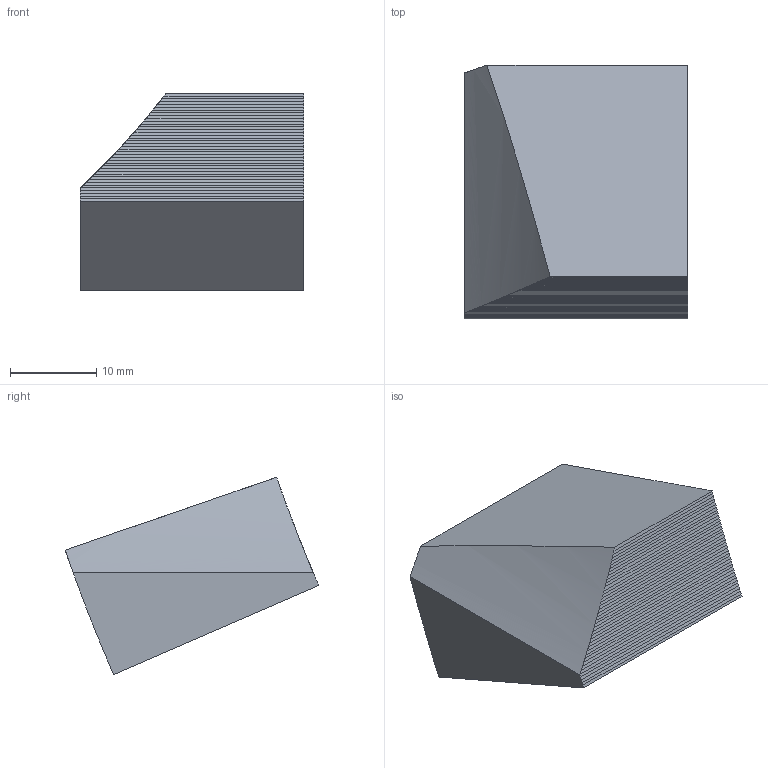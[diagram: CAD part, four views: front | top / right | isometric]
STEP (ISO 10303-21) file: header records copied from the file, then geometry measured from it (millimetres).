
FILE_DESCRIPTION(('Open CASCADE Model'),'2;1');
FILE_NAME('Open CASCADE Shape Model','2026-10-18T22:58:40',('Author'),( 'Open CASCADE'),'Open CASCADE STEP processor 7.9','Open CASCADE 7.9' ,'Unknown');
FILE_SCHEMA(('AUTOMOTIVE_DESIGN { 1 0 10303 214 1 1 1 1 }'));
Length unit declared in the file: millimetre
Products named in the file (1): Open CASCADE STEP translator 7.9 35
Bounding box: 26 x 29.48 x 22.95 mm (x, y, z)
Volume: 8818.9 mm3; surface area: 2980.7 mm2
Topology: 1 solids, 1 shells, 87 faces, 249 edges, 166 vertices
Faces by surface type: plane 84, cylinder 3
Full cylindrical faces by diameter (mm): 4.2 x2
Entity records: 6210 total; most frequent: CARTESIAN_POINT 1230, DIRECTION 923, LINE 608, VECTOR 608, ORIENTED_EDGE 498, PCURVE 498, DEFINITIONAL_REPRESENTATION 498, EDGE_CURVE 249
